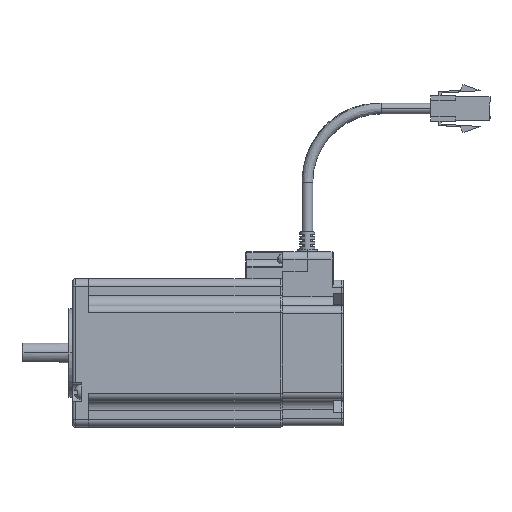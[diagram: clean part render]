
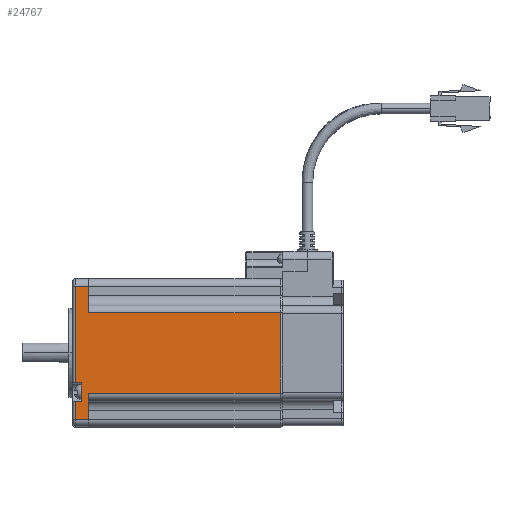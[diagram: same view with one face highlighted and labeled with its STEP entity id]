
A CAD part, top view. The second image highlights one B-rep face of the part: STEP entity #24767.
In plain terms, the highlighted planar face has unit normal (0, 0, 1) as drawn and (1, 0, 0) by its records, which use the part's own axes.
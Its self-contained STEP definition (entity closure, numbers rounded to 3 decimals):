
#95 = VECTOR ( 'NONE', #26768, 1000. ) ;
#147 = CARTESIAN_POINT ( 'NONE',  ( 92.176, 212.692, -205.7 ) ) ;
#442 = CARTESIAN_POINT ( 'NONE',  ( 92.176, 197.892, -212. ) ) ;
#520 = VERTEX_POINT ( 'NONE', #21961 ) ;
#1023 = VECTOR ( 'NONE', #23216, 1000. ) ;
#1082 = DIRECTION ( 'NONE',  ( 0., 0., -1. ) ) ;
#1085 = ORIENTED_EDGE ( 'NONE', *, *, #6106, .T. ) ;
#1102 = DIRECTION ( 'NONE',  ( 0., 1., 0. ) ) ;
#1269 = CARTESIAN_POINT ( 'NONE',  ( 92.176, 169.87, -205.7 ) ) ;
#1336 = CARTESIAN_POINT ( 'NONE',  ( 92.176, 197.892, -211. ) ) ;
#1421 = CARTESIAN_POINT ( 'NONE',  ( 92.176, 201.992, -212. ) ) ;
#2223 = VERTEX_POINT ( 'NONE', #14292 ) ;
#2428 = ORIENTED_EDGE ( 'NONE', *, *, #8816, .F. ) ;
#2716 = VECTOR ( 'NONE', #1102, 1000. ) ;
#2765 = CARTESIAN_POINT ( 'NONE',  ( 92.176, 155.692, -212. ) ) ;
#2949 = VECTOR ( 'NONE', #7794, 1000. ) ;
#3168 = DIRECTION ( 'NONE',  ( 0., 0., 1. ) ) ;
#3500 = VERTEX_POINT ( 'NONE', #14826 ) ;
#3665 = VECTOR ( 'NONE', #1082, 1000. ) ;
#3738 = EDGE_CURVE ( 'NONE', #27950, #14530, #24462, .T. ) ;
#3744 = VECTOR ( 'NONE', #24597, 1000. ) ;
#5044 = ORIENTED_EDGE ( 'NONE', *, *, #20553, .F. ) ;
#5115 = CARTESIAN_POINT ( 'NONE',  ( 92.176, 197.892, -208.5 ) ) ;
#5216 = PLANE ( 'NONE',  #27450 ) ;
#5364 = VECTOR ( 'NONE', #7627, 1000. ) ;
#5789 = VERTEX_POINT ( 'NONE', #147 ) ;
#6106 = EDGE_CURVE ( 'NONE', #2223, #27950, #6373, .T. ) ;
#6373 = LINE ( 'NONE', #1421, #19176 ) ;
#6436 = EDGE_CURVE ( 'NONE', #13813, #19700, #9370, .T. ) ;
#6601 = LINE ( 'NONE', #28066, #95 ) ;
#6681 = VECTOR ( 'NONE', #10074, 1000. ) ;
#7555 = CARTESIAN_POINT ( 'NONE',  ( 92.176, 212.692, -211. ) ) ;
#7601 = CARTESIAN_POINT ( 'NONE',  ( 92.176, 205.292, -212. ) ) ;
#7627 = DIRECTION ( 'NONE',  ( 0., -1., 0. ) ) ;
#7769 = CARTESIAN_POINT ( 'NONE',  ( 92.176, 155.692, -128. ) ) ;
#7794 = DIRECTION ( 'NONE',  ( 0., 0., -1. ) ) ;
#8807 = ORIENTED_EDGE ( 'NONE', *, *, #27078, .F. ) ;
#8816 = EDGE_CURVE ( 'NONE', #19700, #3500, #6601, .T. ) ;
#9225 = CARTESIAN_POINT ( 'NONE',  ( 92.176, 205.292, -211. ) ) ;
#9350 = LINE ( 'NONE', #11400, #2949 ) ;
#9370 = LINE ( 'NONE', #24535, #3744 ) ;
#10074 = DIRECTION ( 'NONE',  ( 0., 0., 1. ) ) ;
#10231 = CARTESIAN_POINT ( 'NONE',  ( 92.176, 169.392, -212. ) ) ;
#10302 = EDGE_CURVE ( 'NONE', #17713, #16332, #15142, .T. ) ;
#11400 = CARTESIAN_POINT ( 'NONE',  ( 92.176, 212.692, -212. ) ) ;
#11487 = CARTESIAN_POINT ( 'NONE',  ( 92.176, 201.992, -128. ) ) ;
#11994 = LINE ( 'NONE', #26243, #21677 ) ;
#12430 = ORIENTED_EDGE ( 'NONE', *, *, #24236, .F. ) ;
#13017 = LINE ( 'NONE', #27816, #24957 ) ;
#13813 = VERTEX_POINT ( 'NONE', #1336 ) ;
#14292 = CARTESIAN_POINT ( 'NONE',  ( 92.176, 201.992, -205.7 ) ) ;
#14411 = ORIENTED_EDGE ( 'NONE', *, *, #19548, .F. ) ;
#14530 = VERTEX_POINT ( 'NONE', #29533 ) ;
#14826 = CARTESIAN_POINT ( 'NONE',  ( 92.176, 158.692, -205.7 ) ) ;
#15142 = LINE ( 'NONE', #20104, #26931 ) ;
#15445 = ORIENTED_EDGE ( 'NONE', *, *, #10302, .F. ) ;
#15492 = LINE ( 'NONE', #1269, #2716 ) ;
#15651 = LINE ( 'NONE', #442, #3665 ) ;
#16332 = VERTEX_POINT ( 'NONE', #9225 ) ;
#16520 = ORIENTED_EDGE ( 'NONE', *, *, #26991, .F. ) ;
#17022 = VERTEX_POINT ( 'NONE', #20321 ) ;
#17713 = VERTEX_POINT ( 'NONE', #7555 ) ;
#18126 = EDGE_CURVE ( 'NONE', #14530, #520, #25733, .T. ) ;
#19176 = VECTOR ( 'NONE', #3168, 1000. ) ;
#19186 = ORIENTED_EDGE ( 'NONE', *, *, #30141, .T. ) ;
#19548 = EDGE_CURVE ( 'NONE', #5789, #17713, #9350, .T. ) ;
#19578 = VERTEX_POINT ( 'NONE', #5115 ) ;
#19700 = VERTEX_POINT ( 'NONE', #28657 ) ;
#19966 = DIRECTION ( 'NONE',  ( 0., -1., 0. ) ) ;
#20104 = CARTESIAN_POINT ( 'NONE',  ( 92.176, 205.292, -211. ) ) ;
#20321 = CARTESIAN_POINT ( 'NONE',  ( 92.176, 205.292, -208.5 ) ) ;
#20360 = FACE_OUTER_BOUND ( 'NONE', #25871, .T. ) ;
#20553 = EDGE_CURVE ( 'NONE', #19578, #13813, #15651, .T. ) ;
#21572 = DIRECTION ( 'NONE',  ( 0., 1., 0. ) ) ;
#21677 = VECTOR ( 'NONE', #21572, 1000. ) ;
#21954 = DIRECTION ( 'NONE',  ( 0., 0., -1. ) ) ;
#21961 = CARTESIAN_POINT ( 'NONE',  ( 92.176, 169.392, -205.7 ) ) ;
#22445 = ORIENTED_EDGE ( 'NONE', *, *, #6436, .F. ) ;
#23216 = DIRECTION ( 'NONE',  ( 0., 0., -1. ) ) ;
#24236 = EDGE_CURVE ( 'NONE', #3500, #520, #15492, .T. ) ;
#24265 = DIRECTION ( 'NONE',  ( 1., 0., 0. ) ) ;
#24462 = LINE ( 'NONE', #7769, #5364 ) ;
#24535 = CARTESIAN_POINT ( 'NONE',  ( 92.176, 197.892, -211. ) ) ;
#24597 = DIRECTION ( 'NONE',  ( 0., -1., 0. ) ) ;
#24767 = ADVANCED_FACE ( 'NONE', ( #20360 ), #5216, .T. ) ;
#24957 = VECTOR ( 'NONE', #30096, 1000. ) ;
#25680 = LINE ( 'NONE', #7601, #6681 ) ;
#25733 = LINE ( 'NONE', #10231, #1023 ) ;
#25871 = EDGE_LOOP ( 'NONE', ( #1085, #30246, #29542, #12430, #2428, #22445, #5044, #19186, #8807, #15445, #14411, #16520 ) ) ;
#26243 = CARTESIAN_POINT ( 'NONE',  ( 92.176, 216.227, -205.7 ) ) ;
#26768 = DIRECTION ( 'NONE',  ( 0., 0., 1. ) ) ;
#26931 = VECTOR ( 'NONE', #19966, 1000. ) ;
#26991 = EDGE_CURVE ( 'NONE', #2223, #5789, #11994, .T. ) ;
#27078 = EDGE_CURVE ( 'NONE', #16332, #17022, #25680, .T. ) ;
#27450 = AXIS2_PLACEMENT_3D ( 'NONE', #2765, #24265, #21954 ) ;
#27816 = CARTESIAN_POINT ( 'NONE',  ( 92.176, 155.692, -208.5 ) ) ;
#27950 = VERTEX_POINT ( 'NONE', #11487 ) ;
#28066 = CARTESIAN_POINT ( 'NONE',  ( 92.176, 158.692, -121. ) ) ;
#28657 = CARTESIAN_POINT ( 'NONE',  ( 92.176, 158.692, -211. ) ) ;
#29533 = CARTESIAN_POINT ( 'NONE',  ( 92.176, 169.392, -128. ) ) ;
#29542 = ORIENTED_EDGE ( 'NONE', *, *, #18126, .T. ) ;
#30096 = DIRECTION ( 'NONE',  ( 0., 1., 0. ) ) ;
#30141 = EDGE_CURVE ( 'NONE', #19578, #17022, #13017, .T. ) ;
#30246 = ORIENTED_EDGE ( 'NONE', *, *, #3738, .T. ) ;
